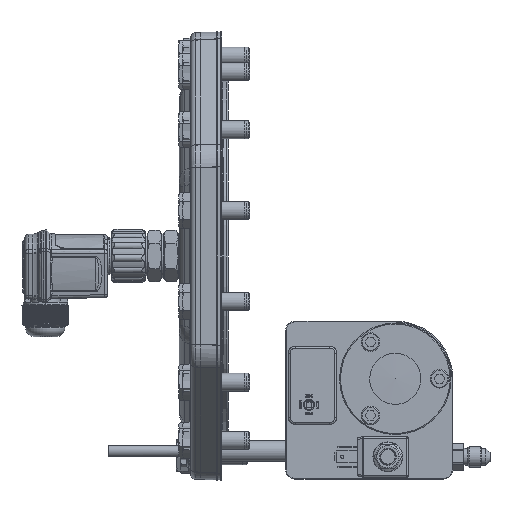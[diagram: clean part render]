
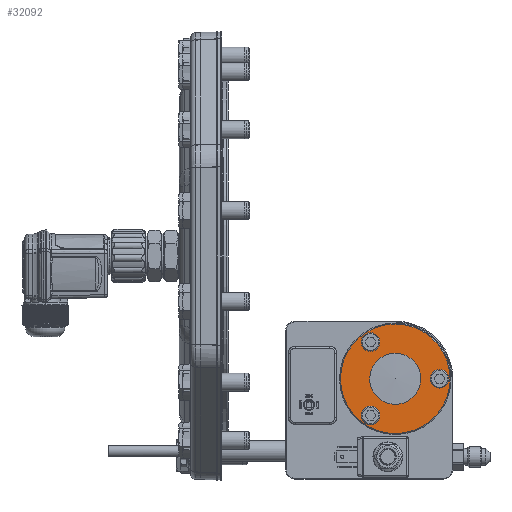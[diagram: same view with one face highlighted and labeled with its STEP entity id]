
A CAD part, front view. The second image highlights one B-rep face of the part: STEP entity #32092.
In plain terms, the highlighted planar face has unit normal (0, -1, 0) as drawn and (0, 0, -1) by its records, which use the part's own axes.
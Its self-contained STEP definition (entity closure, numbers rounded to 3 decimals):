
#32092=ADVANCED_FACE('',(#33974,#33975,#33976,#33977,#33978),#33293,.T.);
#33293=PLANE('',#66424);
#33974=FACE_BOUND('',#37082,.T.);
#33975=FACE_BOUND('',#37083,.T.);
#33976=FACE_BOUND('',#37084,.T.);
#33977=FACE_BOUND('',#37085,.T.);
#33978=FACE_BOUND('',#37086,.T.);
#37082=EDGE_LOOP('',(#49599));
#37083=EDGE_LOOP('',(#49600));
#37084=EDGE_LOOP('',(#49601));
#37085=EDGE_LOOP('',(#49602));
#37086=EDGE_LOOP('',(#49603));
#49599=ORIENTED_EDGE('',*,*,#59967,.T.);
#49600=ORIENTED_EDGE('',*,*,#59968,.T.);
#49601=ORIENTED_EDGE('',*,*,#59969,.T.);
#49602=ORIENTED_EDGE('',*,*,#59970,.T.);
#49603=ORIENTED_EDGE('',*,*,#59971,.T.);
#53676=VERTEX_POINT('',#111997);
#53677=VERTEX_POINT('',#111999);
#53678=VERTEX_POINT('',#112001);
#53679=VERTEX_POINT('',#112003);
#53680=VERTEX_POINT('',#112005);
#59967=EDGE_CURVE('',#53676,#53676,#62015,.T.);
#59968=EDGE_CURVE('',#53677,#53677,#62016,.T.);
#59969=EDGE_CURVE('',#53678,#53678,#62017,.T.);
#59970=EDGE_CURVE('',#53679,#53679,#62018,.T.);
#59971=EDGE_CURVE('',#53680,#53680,#62019,.T.);
#62015=CIRCLE('',#66419,5.);
#62016=CIRCLE('',#66420,5.);
#62017=CIRCLE('',#66421,5.);
#62018=CIRCLE('',#66422,29.5);
#62019=CIRCLE('',#66423,13.75);
#66419=AXIS2_PLACEMENT_3D('',#111996,#78058,#78059);
#66420=AXIS2_PLACEMENT_3D('',#111998,#78060,#78061);
#66421=AXIS2_PLACEMENT_3D('',#112000,#78062,#78063);
#66422=AXIS2_PLACEMENT_3D('',#112002,#78064,#78065);
#66423=AXIS2_PLACEMENT_3D('',#112004,#78066,#78067);
#66424=AXIS2_PLACEMENT_3D('',#112006,#78068,#78069);
#78058=DIRECTION('',(0.,0.,1.));
#78059=DIRECTION('',(-1.,0.,0.));
#78060=DIRECTION('',(0.,0.,1.));
#78061=DIRECTION('',(-1.,0.,0.));
#78062=DIRECTION('',(0.,0.,1.));
#78063=DIRECTION('',(-1.,0.,0.));
#78064=DIRECTION('',(0.,0.,-1.));
#78065=DIRECTION('',(0.,-1.,0.));
#78066=DIRECTION('',(0.,0.,1.));
#78067=DIRECTION('',(0.99,-0.139,0.));
#78068=DIRECTION('',(0.,0.,-1.));
#78069=DIRECTION('',(0.,-1.,0.));
#111996=CARTESIAN_POINT('',(-13.309,-19.731,-11.2));
#111997=CARTESIAN_POINT('',(-18.309,-19.731,-11.2));
#111998=CARTESIAN_POINT('',(23.8,0.,-11.2));
#111999=CARTESIAN_POINT('',(18.8,0.,-11.2));
#112000=CARTESIAN_POINT('',(-13.309,19.731,-11.2));
#112001=CARTESIAN_POINT('',(-18.309,19.731,-11.2));
#112002=CARTESIAN_POINT('',(0.,0.,-11.2));
#112003=CARTESIAN_POINT('',(0.,-29.5,-11.2));
#112004=CARTESIAN_POINT('',(0.,0.,-11.2));
#112005=CARTESIAN_POINT('',(13.616,-1.918,-11.2));
#112006=CARTESIAN_POINT('',(0.,0.,-11.2));
